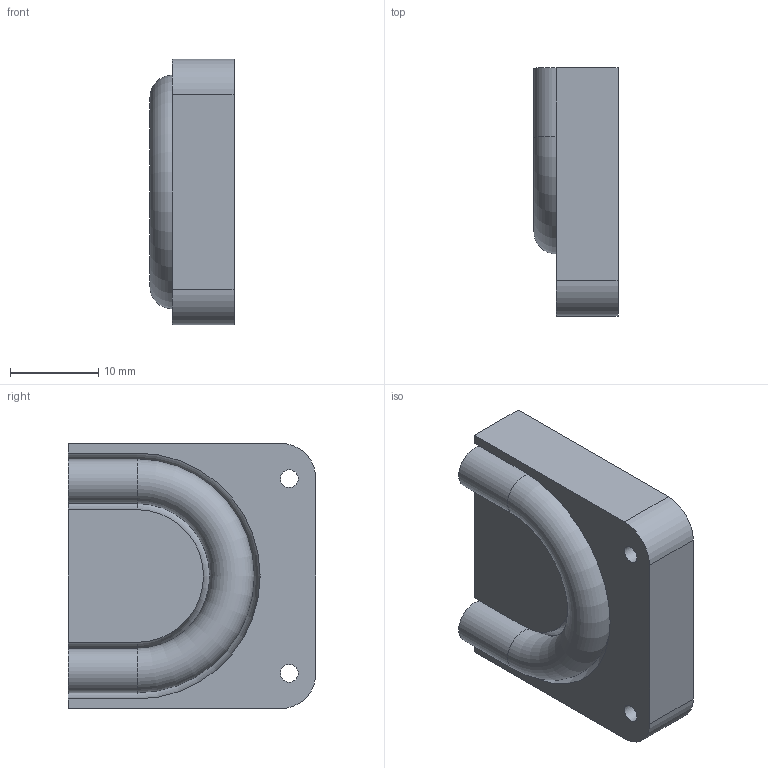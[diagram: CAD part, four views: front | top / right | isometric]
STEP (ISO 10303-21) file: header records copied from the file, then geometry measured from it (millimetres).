
FILE_DESCRIPTION(/* description */ (''),/* implementation_level */ '2;1');
FILE_NAME(/* name */ 'kolko_3_1.step',/* time_stamp */ '2026-04-10T14:36:04+02:00',/* author */ (''),/* organization */ (''),/* preprocessor_version */ 'ST-DEVELOPER v20.1',/* originating_system */ 'Autodesk Translation Framework v14.24.0.0',/* authorisation */ '');
FILE_SCHEMA (('AUTOMOTIVE_DESIGN { 1 0 10303 214 3 1 1 }'));
Length unit declared in the file: millimetre
Products named in the file (2): kolko_3_1; szafka_zaczep
Assembly tree (1 placements, depth 2):
  kolko_3_1
    szafka_zaczep
Bounding box: 9.5 x 28 x 30 mm (x, y, z)
Volume: 5962.7 mm3; surface area: 3489.6 mm2
Topology: 2 solids, 2 shells, 19 faces, 45 edges, 30 vertices
Faces by surface type: plane 9, cylinder 8, torus 2
Full cylindrical faces by diameter (mm): 2 x2, 5 x2
Entity records: 622 total; most frequent: DIRECTION 110, CARTESIAN_POINT 97, ORIENTED_EDGE 90, EDGE_CURVE 45, AXIS2_PLACEMENT_3D 43, VERTEX_POINT 30, LINE 24, VECTOR 24
